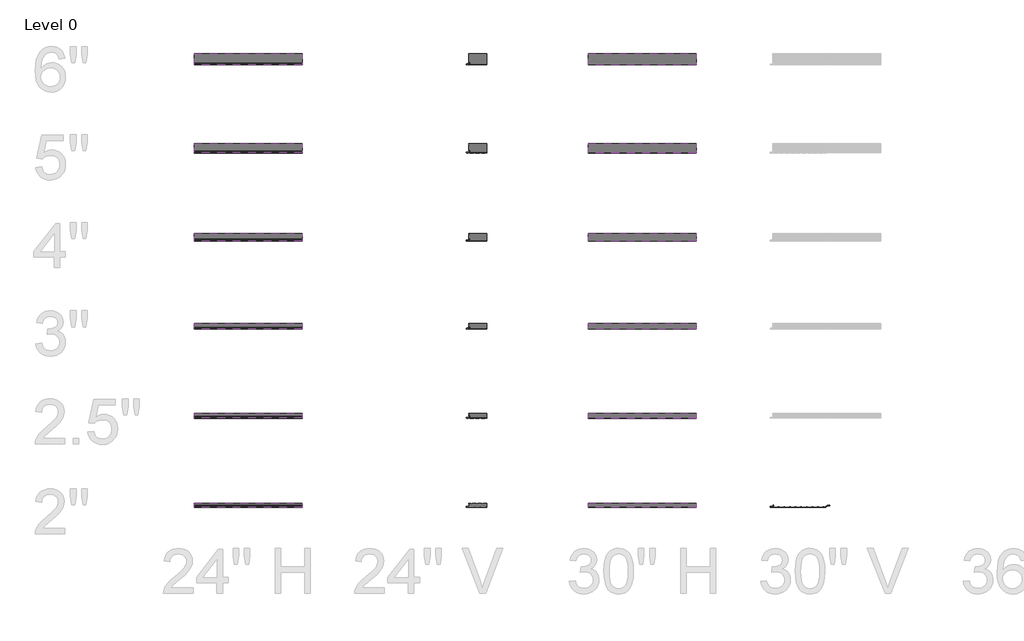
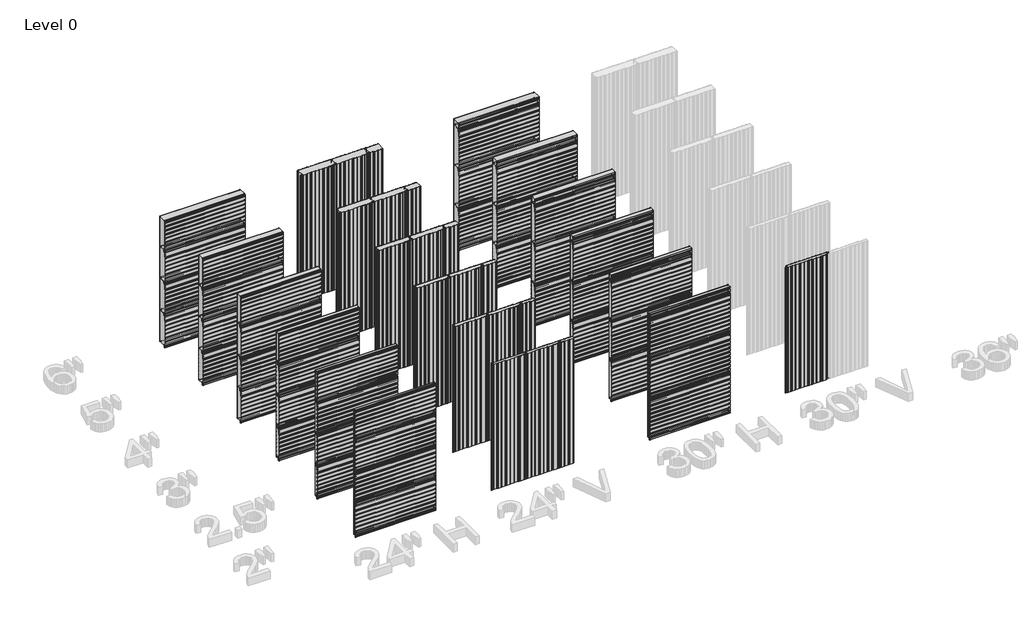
# One storey, part 1 of 5: 67 plates.
"""IFC4 building model written with IfcOpenShell, lengths in millimetres."""

from ifc_helpers import new_model, si_unit, origin, place, context, project, spatial, transform, mapped, element, save
from components import plate_c709af47, plate_b0f2de99, plate_cd0d1659, plate_123aba7d, plate_0f366c96, plate_8edaaf57, plate_3d0fb899, plate_f040c943, plate_9315405e, plate_3c53f4bd, plate_c366fed6, plate_6fa7aaa8, plate_1b5a5f25, plate_77654dfe, plate_fe4ee071, plate_993d08a6, plate_1634ea5a, plate_a4bec449, plate_3ed9eecc, plate_4017daaa, plate_b432f40a, plate_59b1665d, plate_a46f110f, plate_b8075c91, plate_1b91cf0f, plate_19a01b62, plate_844c534e, plate_5fc03b2c, plate_0d3032e6, plate_4f22e56c, plate_9081da33, plate_73ffa5bb, plate_9123f76a, plate_28c68afe, plate_2a957977, plate_dd146152, plate_8824311e, plate_5640bb00, plate_afb5f473, plate_10c0e79f, plate_7d57a904, plate_50353770, plate_b83bb295, plate_e773fe38, plate_7f2e1a05, plate_16957b23, plate_8e5ef11d, plate_bcca7846, plate_fe51cd75, plate_9586a886, plate_9828c6b8, plate_59946ea0, plate_35a1a863, plate_c3c1f8e7, plate_12433003, plate_22b19f27, plate_f623210a, plate_ed403b6f, plate_710b1f2b, plate_e210ae97

model = new_model("IFC4")

# Units and contexts
model_context = context("Model", 3, world=origin())
ifc_project = project(units=[si_unit("LENGTHUNIT", "METRE", prefix="MILLI")], contexts=[model_context])

# Site, building, storey
site = spatial("IfcSite", under=ifc_project)
building = spatial("IfcBuilding", under=site)
storey = spatial("IfcBuildingStorey", under=building, Name="Level 0", Elevation=0.0)

# Plates
placement = place(None, origin())
plate_shape = plate_c709af47(model_context)
plate_2_shape = plate_b0f2de99(model_context)
plate_3_shape = plate_cd0d1659(model_context)
element("IfcPlate", 1, ObjectType="KIP-30-Karrier-KP-R19-CP-Hz-SL_SL : Hz 2\"", at=placement, inside=storey, context=model_context, shape_type="MappedRepresentation", body=[
    mapped(plate_shape, transform((-24450.7250935, 8444.8222907, 0.0), x_axis=(1.0, 0.0, 0.0), y_axis=(0.0, 1.0, 0.0), z_axis=(0.0, 0.0, 1.0))),
    mapped(plate_2_shape, transform((-24450.7250935, 8444.8222907, 0.0), x_axis=(1.0, 0.0, 0.0), y_axis=(0.0, 1.0, 0.0), z_axis=(0.0, 0.0, 1.0))),
    mapped(plate_3_shape, transform((-24450.7250935, 8444.8222907, 0.0), x_axis=(1.0, 0.0, 0.0), y_axis=(0.0, 1.0, 0.0), z_axis=(0.0, 0.0, 1.0))),
])
element("IfcPlate", 2, ObjectType="KIP-30-Karrier-KP-R19-CP-Hz-SL_SL : Hz 2\"", at=placement, inside=storey, context=model_context, shape_type="MappedRepresentation", body=[
    mapped(plate_shape, transform((-24450.7250935, 8444.8222907, 762.0), x_axis=(1.0, 0.0, 0.0), y_axis=(0.0, 1.0, 0.0), z_axis=(0.0, 0.0, 1.0))),
    mapped(plate_2_shape, transform((-24450.7250935, 8444.8222907, 762.0), x_axis=(1.0, 0.0, 0.0), y_axis=(0.0, 1.0, 0.0), z_axis=(0.0, 0.0, 1.0))),
    mapped(plate_3_shape, transform((-24450.7250935, 8444.8222907, 762.0), x_axis=(1.0, 0.0, 0.0), y_axis=(0.0, 1.0, 0.0), z_axis=(0.0, 0.0, 1.0))),
])
element("IfcPlate", 3, ObjectType="KIP-30-Karrier-KP-R19-CP-Hz-SL_SL : Hz 2\"", at=placement, inside=storey, context=model_context, shape_type="MappedRepresentation", body=[
    mapped(plate_shape, transform((-24450.7250935, 8444.8222907, 1524.0), x_axis=(1.0, 0.0, 0.0), y_axis=(0.0, 1.0, 0.0), z_axis=(0.0, 0.0, 1.0))),
    mapped(plate_2_shape, transform((-24450.7250935, 8444.8222907, 1524.0), x_axis=(1.0, 0.0, 0.0), y_axis=(0.0, 1.0, 0.0), z_axis=(0.0, 0.0, 1.0))),
    mapped(plate_3_shape, transform((-24450.7250935, 8444.8222907, 1524.0), x_axis=(1.0, 0.0, 0.0), y_axis=(0.0, 1.0, 0.0), z_axis=(0.0, 0.0, 1.0))),
])
plate_4_shape = plate_123aba7d(model_context)
plate_5_shape = plate_0f366c96(model_context)
plate_6_shape = plate_8edaaf57(model_context)
element("IfcPlate", 4, ObjectType="KIP-24-Karrier-KP-R19-CP-Hz-SL3-8in_SL : Hz 2\"", at=placement, inside=storey, context=model_context, shape_type="MappedRepresentation", body=[
    mapped(plate_4_shape, transform((-29784.7250935, 8444.8222907, 0.0), x_axis=(1.0, 0.0, 0.0), y_axis=(0.0, 1.0, 0.0), z_axis=(0.0, 0.0, 1.0))),
    mapped(plate_5_shape, transform((-29784.7250935, 8444.8222907, 0.0), x_axis=(1.0, 0.0, 0.0), y_axis=(0.0, 1.0, 0.0), z_axis=(0.0, 0.0, 1.0))),
    mapped(plate_6_shape, transform((-29784.7250935, 8444.8222907, 0.0), x_axis=(1.0, 0.0, 0.0), y_axis=(0.0, 1.0, 0.0), z_axis=(0.0, 0.0, 1.0))),
])
element("IfcPlate", 5, ObjectType="KIP-24-Karrier-KP-R19-CP-Hz-SL3-8in_SL : Hz 2\"", at=placement, inside=storey, context=model_context, shape_type="MappedRepresentation", body=[
    mapped(plate_4_shape, transform((-29784.7250935, 8444.8222907, 609.6), x_axis=(1.0, 0.0, 0.0), y_axis=(0.0, 1.0, 0.0), z_axis=(0.0, 0.0, 1.0))),
    mapped(plate_5_shape, transform((-29784.7250935, 8444.8222907, 609.6), x_axis=(1.0, 0.0, 0.0), y_axis=(0.0, 1.0, 0.0), z_axis=(0.0, 0.0, 1.0))),
    mapped(plate_6_shape, transform((-29784.7250935, 8444.8222907, 609.6), x_axis=(1.0, 0.0, 0.0), y_axis=(0.0, 1.0, 0.0), z_axis=(0.0, 0.0, 1.0))),
])
element("IfcPlate", 6, ObjectType="KIP-24-Karrier-KP-R19-CP-Hz-SL3-8in_SL : Hz 2\"", at=placement, inside=storey, context=model_context, shape_type="MappedRepresentation", body=[
    mapped(plate_4_shape, transform((-29784.7250935, 8444.8222907, 1219.2), x_axis=(1.0, 0.0, 0.0), y_axis=(0.0, 1.0, 0.0), z_axis=(0.0, 0.0, 1.0))),
    mapped(plate_5_shape, transform((-29784.7250935, 8444.8222907, 1219.2), x_axis=(1.0, 0.0, 0.0), y_axis=(0.0, 1.0, 0.0), z_axis=(0.0, 0.0, 1.0))),
    mapped(plate_6_shape, transform((-29784.7250935, 8444.8222907, 1219.2), x_axis=(1.0, 0.0, 0.0), y_axis=(0.0, 1.0, 0.0), z_axis=(0.0, 0.0, 1.0))),
])
plate_7_shape = plate_3d0fb899(model_context)
element("IfcPlate", 7, ObjectType="KIP-24-Karrier-KP-R19-CP-Hz-SL3-8in_SL : Hz 2\"", at=placement, inside=storey, context=model_context, shape_type="MappedRepresentation", body=[
    mapped(plate_7_shape, transform((-29784.7250935, 8444.8222907, 1828.8), x_axis=(1.0, 0.0, 0.0), y_axis=(0.0, 1.0, 0.0), z_axis=(0.0, 0.0, 1.0))),
])
plate_8_shape = plate_f040c943(model_context)
element("IfcPlate", 8, ObjectType="KIP-30-Karrier-KP-R19-CP-Hz-SL_SL : Hz 2\"", at=placement, inside=storey, context=model_context, shape_type="MappedRepresentation", body=[
    mapped(plate_8_shape, transform((-24450.7250935, 8444.8222907, 2286.0), x_axis=(1.0, 0.0, 0.0), y_axis=(0.0, 1.0, 0.0), z_axis=(0.0, 0.0, 1.0))),
])
plate_9_shape = plate_9315405e(model_context)
plate_10_shape = plate_3c53f4bd(model_context)
element("IfcPlate", 9, ObjectType="KIP-30-Karrier-KP-R19-CP-Hz-SL_SL : Hz 2.5\"", at=placement, inside=storey, context=model_context, shape_type="MappedRepresentation", body=[
    mapped(plate_9_shape, transform((-24450.7250935, 9664.0222907, 0.0), x_axis=(1.0, 0.0, 0.0), y_axis=(0.0, 1.0, 0.0), z_axis=(0.0, 0.0, 1.0))),
    mapped(plate_2_shape, transform((-24450.7250935, 9664.0222907, 0.0), x_axis=(1.0, 0.0, 0.0), y_axis=(0.0, 1.0, 0.0), z_axis=(0.0, 0.0, 1.0))),
    mapped(plate_10_shape, transform((-24450.7250935, 9664.0222907, 0.0), x_axis=(1.0, 0.0, 0.0), y_axis=(0.0, 1.0, 0.0), z_axis=(0.0, 0.0, 1.0))),
])
element("IfcPlate", 10, ObjectType="KIP-30-Karrier-KP-R19-CP-Hz-SL_SL : Hz 2.5\"", at=placement, inside=storey, context=model_context, shape_type="MappedRepresentation", body=[
    mapped(plate_9_shape, transform((-24450.7250935, 9664.0222907, 762.0), x_axis=(1.0, 0.0, 0.0), y_axis=(0.0, 1.0, 0.0), z_axis=(0.0, 0.0, 1.0))),
    mapped(plate_2_shape, transform((-24450.7250935, 9664.0222907, 762.0), x_axis=(1.0, 0.0, 0.0), y_axis=(0.0, 1.0, 0.0), z_axis=(0.0, 0.0, 1.0))),
    mapped(plate_10_shape, transform((-24450.7250935, 9664.0222907, 762.0), x_axis=(1.0, 0.0, 0.0), y_axis=(0.0, 1.0, 0.0), z_axis=(0.0, 0.0, 1.0))),
])
element("IfcPlate", 11, ObjectType="KIP-30-Karrier-KP-R19-CP-Hz-SL_SL : Hz 2.5\"", at=placement, inside=storey, context=model_context, shape_type="MappedRepresentation", body=[
    mapped(plate_9_shape, transform((-24450.7250935, 9664.0222907, 1524.0), x_axis=(1.0, 0.0, 0.0), y_axis=(0.0, 1.0, 0.0), z_axis=(0.0, 0.0, 1.0))),
    mapped(plate_2_shape, transform((-24450.7250935, 9664.0222907, 1524.0), x_axis=(1.0, 0.0, 0.0), y_axis=(0.0, 1.0, 0.0), z_axis=(0.0, 0.0, 1.0))),
    mapped(plate_10_shape, transform((-24450.7250935, 9664.0222907, 1524.0), x_axis=(1.0, 0.0, 0.0), y_axis=(0.0, 1.0, 0.0), z_axis=(0.0, 0.0, 1.0))),
])
plate_11_shape = plate_c366fed6(model_context)
plate_12_shape = plate_6fa7aaa8(model_context)
element("IfcPlate", 12, ObjectType="KIP-24-Karrier-KP-R19-CP-Hz-SL3-8in_SL : Hz 2.5\"", at=placement, inside=storey, context=model_context, shape_type="MappedRepresentation", body=[
    mapped(plate_11_shape, transform((-29784.7250935, 9664.0222907, 0.0), x_axis=(1.0, 0.0, 0.0), y_axis=(0.0, 1.0, 0.0), z_axis=(0.0, 0.0, 1.0))),
    mapped(plate_5_shape, transform((-29784.7250935, 9664.0222907, 0.0), x_axis=(1.0, 0.0, 0.0), y_axis=(0.0, 1.0, 0.0), z_axis=(0.0, 0.0, 1.0))),
    mapped(plate_12_shape, transform((-29784.7250935, 9664.0222907, 0.0), x_axis=(1.0, 0.0, 0.0), y_axis=(0.0, 1.0, 0.0), z_axis=(0.0, 0.0, 1.0))),
])
element("IfcPlate", 13, ObjectType="KIP-24-Karrier-KP-R19-CP-Hz-SL3-8in_SL : Hz 2.5\"", at=placement, inside=storey, context=model_context, shape_type="MappedRepresentation", body=[
    mapped(plate_11_shape, transform((-29784.7250935, 9664.0222907, 609.6), x_axis=(1.0, 0.0, 0.0), y_axis=(0.0, 1.0, 0.0), z_axis=(0.0, 0.0, 1.0))),
    mapped(plate_5_shape, transform((-29784.7250935, 9664.0222907, 609.6), x_axis=(1.0, 0.0, 0.0), y_axis=(0.0, 1.0, 0.0), z_axis=(0.0, 0.0, 1.0))),
    mapped(plate_12_shape, transform((-29784.7250935, 9664.0222907, 609.6), x_axis=(1.0, 0.0, 0.0), y_axis=(0.0, 1.0, 0.0), z_axis=(0.0, 0.0, 1.0))),
])
element("IfcPlate", 14, ObjectType="KIP-24-Karrier-KP-R19-CP-Hz-SL3-8in_SL : Hz 2.5\"", at=placement, inside=storey, context=model_context, shape_type="MappedRepresentation", body=[
    mapped(plate_11_shape, transform((-29784.7250935, 9664.0222907, 1219.2), x_axis=(1.0, 0.0, 0.0), y_axis=(0.0, 1.0, 0.0), z_axis=(0.0, 0.0, 1.0))),
    mapped(plate_5_shape, transform((-29784.7250935, 9664.0222907, 1219.2), x_axis=(1.0, 0.0, 0.0), y_axis=(0.0, 1.0, 0.0), z_axis=(0.0, 0.0, 1.0))),
    mapped(plate_12_shape, transform((-29784.7250935, 9664.0222907, 1219.2), x_axis=(1.0, 0.0, 0.0), y_axis=(0.0, 1.0, 0.0), z_axis=(0.0, 0.0, 1.0))),
])
plate_13_shape = plate_1b5a5f25(model_context)
element("IfcPlate", 15, ObjectType="KIP-24-Karrier-KP-R19-CP-Hz-SL3-8in_SL : Hz 2.5\"", at=placement, inside=storey, context=model_context, shape_type="MappedRepresentation", body=[
    mapped(plate_13_shape, transform((-29784.7250935, 9664.0222907, 1828.8), x_axis=(1.0, 0.0, 0.0), y_axis=(0.0, 1.0, 0.0), z_axis=(0.0, 0.0, 1.0))),
])
plate_14_shape = plate_77654dfe(model_context)
element("IfcPlate", 16, ObjectType="KIP-30-Karrier-KP-R19-CP-Hz-SL_SL : Hz 2.5\"", at=placement, inside=storey, context=model_context, shape_type="MappedRepresentation", body=[
    mapped(plate_14_shape, transform((-24450.7250935, 9664.0222907, 2286.0), x_axis=(1.0, 0.0, 0.0), y_axis=(0.0, 1.0, 0.0), z_axis=(0.0, 0.0, 1.0))),
])
plate_15_shape = plate_fe4ee071(model_context)
plate_16_shape = plate_993d08a6(model_context)
element("IfcPlate", 17, ObjectType="KIP-30-Karrier-KP-R19-CP-Hz-SL_SL : Hz 3\"", at=placement, inside=storey, context=model_context, shape_type="MappedRepresentation", body=[
    mapped(plate_15_shape, transform((-24450.7250935, 10883.2222907, 0.0), x_axis=(1.0, 0.0, 0.0), y_axis=(0.0, 1.0, 0.0), z_axis=(0.0, 0.0, 1.0))),
    mapped(plate_2_shape, transform((-24450.7250935, 10883.2222907, 0.0), x_axis=(1.0, 0.0, 0.0), y_axis=(0.0, 1.0, 0.0), z_axis=(0.0, 0.0, 1.0))),
    mapped(plate_16_shape, transform((-24450.7250935, 10883.2222907, 0.0), x_axis=(1.0, 0.0, 0.0), y_axis=(0.0, 1.0, 0.0), z_axis=(0.0, 0.0, 1.0))),
])
element("IfcPlate", 18, ObjectType="KIP-30-Karrier-KP-R19-CP-Hz-SL_SL : Hz 3\"", at=placement, inside=storey, context=model_context, shape_type="MappedRepresentation", body=[
    mapped(plate_15_shape, transform((-24450.7250935, 10883.2222907, 762.0), x_axis=(1.0, 0.0, 0.0), y_axis=(0.0, 1.0, 0.0), z_axis=(0.0, 0.0, 1.0))),
    mapped(plate_2_shape, transform((-24450.7250935, 10883.2222907, 762.0), x_axis=(1.0, 0.0, 0.0), y_axis=(0.0, 1.0, 0.0), z_axis=(0.0, 0.0, 1.0))),
    mapped(plate_16_shape, transform((-24450.7250935, 10883.2222907, 762.0), x_axis=(1.0, 0.0, 0.0), y_axis=(0.0, 1.0, 0.0), z_axis=(0.0, 0.0, 1.0))),
])
element("IfcPlate", 19, ObjectType="KIP-30-Karrier-KP-R19-CP-Hz-SL_SL : Hz 3\"", at=placement, inside=storey, context=model_context, shape_type="MappedRepresentation", body=[
    mapped(plate_15_shape, transform((-24450.7250935, 10883.2222907, 1524.0), x_axis=(1.0, 0.0, 0.0), y_axis=(0.0, 1.0, 0.0), z_axis=(0.0, 0.0, 1.0))),
    mapped(plate_2_shape, transform((-24450.7250935, 10883.2222907, 1524.0), x_axis=(1.0, 0.0, 0.0), y_axis=(0.0, 1.0, 0.0), z_axis=(0.0, 0.0, 1.0))),
    mapped(plate_16_shape, transform((-24450.7250935, 10883.2222907, 1524.0), x_axis=(1.0, 0.0, 0.0), y_axis=(0.0, 1.0, 0.0), z_axis=(0.0, 0.0, 1.0))),
])
plate_17_shape = plate_1634ea5a(model_context)
plate_18_shape = plate_a4bec449(model_context)
element("IfcPlate", 20, ObjectType="KIP-24-Karrier-KP-R19-CP-Hz-SL3-8in_SL : Hz 3\"", at=placement, inside=storey, context=model_context, shape_type="MappedRepresentation", body=[
    mapped(plate_17_shape, transform((-29784.7250935, 10883.2222907, 0.0), x_axis=(1.0, 0.0, 0.0), y_axis=(0.0, 1.0, 0.0), z_axis=(0.0, 0.0, 1.0))),
    mapped(plate_5_shape, transform((-29784.7250935, 10883.2222907, 0.0), x_axis=(1.0, 0.0, 0.0), y_axis=(0.0, 1.0, 0.0), z_axis=(0.0, 0.0, 1.0))),
    mapped(plate_18_shape, transform((-29784.7250935, 10883.2222907, 0.0), x_axis=(1.0, 0.0, 0.0), y_axis=(0.0, 1.0, 0.0), z_axis=(0.0, 0.0, 1.0))),
])
element("IfcPlate", 21, ObjectType="KIP-24-Karrier-KP-R19-CP-Hz-SL3-8in_SL : Hz 3\"", at=placement, inside=storey, context=model_context, shape_type="MappedRepresentation", body=[
    mapped(plate_17_shape, transform((-29784.7250935, 10883.2222907, 609.6), x_axis=(1.0, 0.0, 0.0), y_axis=(0.0, 1.0, 0.0), z_axis=(0.0, 0.0, 1.0))),
    mapped(plate_5_shape, transform((-29784.7250935, 10883.2222907, 609.6), x_axis=(1.0, 0.0, 0.0), y_axis=(0.0, 1.0, 0.0), z_axis=(0.0, 0.0, 1.0))),
    mapped(plate_18_shape, transform((-29784.7250935, 10883.2222907, 609.6), x_axis=(1.0, 0.0, 0.0), y_axis=(0.0, 1.0, 0.0), z_axis=(0.0, 0.0, 1.0))),
])
element("IfcPlate", 22, ObjectType="KIP-24-Karrier-KP-R19-CP-Hz-SL3-8in_SL : Hz 3\"", at=placement, inside=storey, context=model_context, shape_type="MappedRepresentation", body=[
    mapped(plate_17_shape, transform((-29784.7250935, 10883.2222907, 1219.2), x_axis=(1.0, 0.0, 0.0), y_axis=(0.0, 1.0, 0.0), z_axis=(0.0, 0.0, 1.0))),
    mapped(plate_5_shape, transform((-29784.7250935, 10883.2222907, 1219.2), x_axis=(1.0, 0.0, 0.0), y_axis=(0.0, 1.0, 0.0), z_axis=(0.0, 0.0, 1.0))),
    mapped(plate_18_shape, transform((-29784.7250935, 10883.2222907, 1219.2), x_axis=(1.0, 0.0, 0.0), y_axis=(0.0, 1.0, 0.0), z_axis=(0.0, 0.0, 1.0))),
])
plate_19_shape = plate_3ed9eecc(model_context)
element("IfcPlate", 23, ObjectType="KIP-24-Karrier-KP-R19-CP-Hz-SL3-8in_SL : Hz 3\"", at=placement, inside=storey, context=model_context, shape_type="MappedRepresentation", body=[
    mapped(plate_19_shape, transform((-29784.7250935, 10883.2222907, 1828.8), x_axis=(1.0, 0.0, 0.0), y_axis=(0.0, 1.0, 0.0), z_axis=(0.0, 0.0, 1.0))),
])
plate_20_shape = plate_4017daaa(model_context)
element("IfcPlate", 24, ObjectType="KIP-30-Karrier-KP-R19-CP-Hz-SL_SL : Hz 3\"", at=placement, inside=storey, context=model_context, shape_type="MappedRepresentation", body=[
    mapped(plate_20_shape, transform((-24450.7250935, 10883.2222907, 2286.0), x_axis=(1.0, 0.0, 0.0), y_axis=(0.0, 1.0, 0.0), z_axis=(0.0, 0.0, 1.0))),
])
plate_21_shape = plate_b432f40a(model_context)
plate_22_shape = plate_59b1665d(model_context)
element("IfcPlate", 25, ObjectType="KIP-30-Karrier-KP-R19-CP-Hz-SL_SL : Hz 4\"", at=placement, inside=storey, context=model_context, shape_type="MappedRepresentation", body=[
    mapped(plate_21_shape, transform((-24450.7250935, 12102.4222907, 0.0), x_axis=(1.0, 0.0, 0.0), y_axis=(0.0, 1.0, 0.0), z_axis=(0.0, 0.0, 1.0))),
    mapped(plate_2_shape, transform((-24450.7250935, 12102.4222907, 0.0), x_axis=(1.0, 0.0, 0.0), y_axis=(0.0, 1.0, 0.0), z_axis=(0.0, 0.0, 1.0))),
    mapped(plate_22_shape, transform((-24450.7250935, 12102.4222907, 0.0), x_axis=(1.0, 0.0, 0.0), y_axis=(0.0, 1.0, 0.0), z_axis=(0.0, 0.0, 1.0))),
])
element("IfcPlate", 26, ObjectType="KIP-30-Karrier-KP-R19-CP-Hz-SL_SL : Hz 4\"", at=placement, inside=storey, context=model_context, shape_type="MappedRepresentation", body=[
    mapped(plate_21_shape, transform((-24450.7250935, 12102.4222907, 762.0), x_axis=(1.0, 0.0, 0.0), y_axis=(0.0, 1.0, 0.0), z_axis=(0.0, 0.0, 1.0))),
    mapped(plate_2_shape, transform((-24450.7250935, 12102.4222907, 762.0), x_axis=(1.0, 0.0, 0.0), y_axis=(0.0, 1.0, 0.0), z_axis=(0.0, 0.0, 1.0))),
    mapped(plate_22_shape, transform((-24450.7250935, 12102.4222907, 762.0), x_axis=(1.0, 0.0, 0.0), y_axis=(0.0, 1.0, 0.0), z_axis=(0.0, 0.0, 1.0))),
])
element("IfcPlate", 27, ObjectType="KIP-30-Karrier-KP-R19-CP-Hz-SL_SL : Hz 4\"", at=placement, inside=storey, context=model_context, shape_type="MappedRepresentation", body=[
    mapped(plate_21_shape, transform((-24450.7250935, 12102.4222907, 1524.0), x_axis=(1.0, 0.0, 0.0), y_axis=(0.0, 1.0, 0.0), z_axis=(0.0, 0.0, 1.0))),
    mapped(plate_2_shape, transform((-24450.7250935, 12102.4222907, 1524.0), x_axis=(1.0, 0.0, 0.0), y_axis=(0.0, 1.0, 0.0), z_axis=(0.0, 0.0, 1.0))),
    mapped(plate_22_shape, transform((-24450.7250935, 12102.4222907, 1524.0), x_axis=(1.0, 0.0, 0.0), y_axis=(0.0, 1.0, 0.0), z_axis=(0.0, 0.0, 1.0))),
])
plate_23_shape = plate_a46f110f(model_context)
plate_24_shape = plate_b8075c91(model_context)
element("IfcPlate", 28, ObjectType="KIP-24-Karrier-KP-R19-CP-Hz-SL3-8in_SL : Hz 4\"", at=placement, inside=storey, context=model_context, shape_type="MappedRepresentation", body=[
    mapped(plate_23_shape, transform((-29784.7250935, 12102.4222907, 0.0), x_axis=(1.0, 0.0, 0.0), y_axis=(0.0, 1.0, 0.0), z_axis=(0.0, 0.0, 1.0))),
    mapped(plate_5_shape, transform((-29784.7250935, 12102.4222907, 0.0), x_axis=(1.0, 0.0, 0.0), y_axis=(0.0, 1.0, 0.0), z_axis=(0.0, 0.0, 1.0))),
    mapped(plate_24_shape, transform((-29784.7250935, 12102.4222907, 0.0), x_axis=(1.0, 0.0, 0.0), y_axis=(0.0, 1.0, 0.0), z_axis=(0.0, 0.0, 1.0))),
])
element("IfcPlate", 29, ObjectType="KIP-24-Karrier-KP-R19-CP-Hz-SL3-8in_SL : Hz 4\"", at=placement, inside=storey, context=model_context, shape_type="MappedRepresentation", body=[
    mapped(plate_23_shape, transform((-29784.7250935, 12102.4222907, 609.6), x_axis=(1.0, 0.0, 0.0), y_axis=(0.0, 1.0, 0.0), z_axis=(0.0, 0.0, 1.0))),
    mapped(plate_5_shape, transform((-29784.7250935, 12102.4222907, 609.6), x_axis=(1.0, 0.0, 0.0), y_axis=(0.0, 1.0, 0.0), z_axis=(0.0, 0.0, 1.0))),
    mapped(plate_24_shape, transform((-29784.7250935, 12102.4222907, 609.6), x_axis=(1.0, 0.0, 0.0), y_axis=(0.0, 1.0, 0.0), z_axis=(0.0, 0.0, 1.0))),
])
element("IfcPlate", 30, ObjectType="KIP-24-Karrier-KP-R19-CP-Hz-SL3-8in_SL : Hz 4\"", at=placement, inside=storey, context=model_context, shape_type="MappedRepresentation", body=[
    mapped(plate_23_shape, transform((-29784.7250935, 12102.4222907, 1219.2), x_axis=(1.0, 0.0, 0.0), y_axis=(0.0, 1.0, 0.0), z_axis=(0.0, 0.0, 1.0))),
    mapped(plate_5_shape, transform((-29784.7250935, 12102.4222907, 1219.2), x_axis=(1.0, 0.0, 0.0), y_axis=(0.0, 1.0, 0.0), z_axis=(0.0, 0.0, 1.0))),
    mapped(plate_24_shape, transform((-29784.7250935, 12102.4222907, 1219.2), x_axis=(1.0, 0.0, 0.0), y_axis=(0.0, 1.0, 0.0), z_axis=(0.0, 0.0, 1.0))),
])
plate_25_shape = plate_1b91cf0f(model_context)
element("IfcPlate", 31, ObjectType="KIP-24-Karrier-KP-R19-CP-Hz-SL3-8in_SL : Hz 4\"", at=placement, inside=storey, context=model_context, shape_type="MappedRepresentation", body=[
    mapped(plate_25_shape, transform((-29784.7250935, 12102.4222907, 1828.8), x_axis=(1.0, 0.0, 0.0), y_axis=(0.0, 1.0, 0.0), z_axis=(0.0, 0.0, 1.0))),
])
plate_26_shape = plate_19a01b62(model_context)
element("IfcPlate", 32, ObjectType="KIP-30-Karrier-KP-R19-CP-Hz-SL_SL : Hz 4\"", at=placement, inside=storey, context=model_context, shape_type="MappedRepresentation", body=[
    mapped(plate_26_shape, transform((-24450.7250935, 12102.4222907, 2286.0), x_axis=(1.0, 0.0, 0.0), y_axis=(0.0, 1.0, 0.0), z_axis=(0.0, 0.0, 1.0))),
])
plate_27_shape = plate_844c534e(model_context)
plate_28_shape = plate_5fc03b2c(model_context)
element("IfcPlate", 33, ObjectType="KIP-30-Karrier-KP-R19-CP-Hz-SL_SL : Hz 5\"", at=placement, inside=storey, context=model_context, shape_type="MappedRepresentation", body=[
    mapped(plate_27_shape, transform((-24450.7250935, 13321.6222907, 0.0), x_axis=(1.0, 0.0, 0.0), y_axis=(0.0, 1.0, 0.0), z_axis=(0.0, 0.0, 1.0))),
    mapped(plate_2_shape, transform((-24450.7250935, 13321.6222907, 0.0), x_axis=(1.0, 0.0, 0.0), y_axis=(0.0, 1.0, 0.0), z_axis=(0.0, 0.0, 1.0))),
    mapped(plate_28_shape, transform((-24450.7250935, 13321.6222907, 0.0), x_axis=(1.0, 0.0, 0.0), y_axis=(0.0, 1.0, 0.0), z_axis=(0.0, 0.0, 1.0))),
])
element("IfcPlate", 34, ObjectType="KIP-30-Karrier-KP-R19-CP-Hz-SL_SL : Hz 5\"", at=placement, inside=storey, context=model_context, shape_type="MappedRepresentation", body=[
    mapped(plate_27_shape, transform((-24450.7250935, 13321.6222907, 762.0), x_axis=(1.0, 0.0, 0.0), y_axis=(0.0, 1.0, 0.0), z_axis=(0.0, 0.0, 1.0))),
    mapped(plate_2_shape, transform((-24450.7250935, 13321.6222907, 762.0), x_axis=(1.0, 0.0, 0.0), y_axis=(0.0, 1.0, 0.0), z_axis=(0.0, 0.0, 1.0))),
    mapped(plate_28_shape, transform((-24450.7250935, 13321.6222907, 762.0), x_axis=(1.0, 0.0, 0.0), y_axis=(0.0, 1.0, 0.0), z_axis=(0.0, 0.0, 1.0))),
])
element("IfcPlate", 35, ObjectType="KIP-30-Karrier-KP-R19-CP-Hz-SL_SL : Hz 5\"", at=placement, inside=storey, context=model_context, shape_type="MappedRepresentation", body=[
    mapped(plate_27_shape, transform((-24450.7250935, 13321.6222907, 1524.0), x_axis=(1.0, 0.0, 0.0), y_axis=(0.0, 1.0, 0.0), z_axis=(0.0, 0.0, 1.0))),
    mapped(plate_2_shape, transform((-24450.7250935, 13321.6222907, 1524.0), x_axis=(1.0, 0.0, 0.0), y_axis=(0.0, 1.0, 0.0), z_axis=(0.0, 0.0, 1.0))),
    mapped(plate_28_shape, transform((-24450.7250935, 13321.6222907, 1524.0), x_axis=(1.0, 0.0, 0.0), y_axis=(0.0, 1.0, 0.0), z_axis=(0.0, 0.0, 1.0))),
])
plate_29_shape = plate_0d3032e6(model_context)
plate_30_shape = plate_4f22e56c(model_context)
element("IfcPlate", 36, ObjectType="KIP-24-Karrier-KP-R19-CP-Hz-SL3-8in_SL : Hz 5\"", at=placement, inside=storey, context=model_context, shape_type="MappedRepresentation", body=[
    mapped(plate_29_shape, transform((-29784.7250935, 13321.6222907, 0.0), x_axis=(1.0, 0.0, 0.0), y_axis=(0.0, 1.0, 0.0), z_axis=(0.0, 0.0, 1.0))),
    mapped(plate_5_shape, transform((-29784.7250935, 13321.6222907, 0.0), x_axis=(1.0, 0.0, 0.0), y_axis=(0.0, 1.0, 0.0), z_axis=(0.0, 0.0, 1.0))),
    mapped(plate_30_shape, transform((-29784.7250935, 13321.6222907, 0.0), x_axis=(1.0, 0.0, 0.0), y_axis=(0.0, 1.0, 0.0), z_axis=(0.0, 0.0, 1.0))),
])
element("IfcPlate", 37, ObjectType="KIP-24-Karrier-KP-R19-CP-Hz-SL3-8in_SL : Hz 5\"", at=placement, inside=storey, context=model_context, shape_type="MappedRepresentation", body=[
    mapped(plate_29_shape, transform((-29784.7250935, 13321.6222907, 609.6), x_axis=(1.0, 0.0, 0.0), y_axis=(0.0, 1.0, 0.0), z_axis=(0.0, 0.0, 1.0))),
    mapped(plate_5_shape, transform((-29784.7250935, 13321.6222907, 609.6), x_axis=(1.0, 0.0, 0.0), y_axis=(0.0, 1.0, 0.0), z_axis=(0.0, 0.0, 1.0))),
    mapped(plate_30_shape, transform((-29784.7250935, 13321.6222907, 609.6), x_axis=(1.0, 0.0, 0.0), y_axis=(0.0, 1.0, 0.0), z_axis=(0.0, 0.0, 1.0))),
])
element("IfcPlate", 38, ObjectType="KIP-24-Karrier-KP-R19-CP-Hz-SL3-8in_SL : Hz 5\"", at=placement, inside=storey, context=model_context, shape_type="MappedRepresentation", body=[
    mapped(plate_29_shape, transform((-29784.7250935, 13321.6222907, 1219.2), x_axis=(1.0, 0.0, 0.0), y_axis=(0.0, 1.0, 0.0), z_axis=(0.0, 0.0, 1.0))),
    mapped(plate_5_shape, transform((-29784.7250935, 13321.6222907, 1219.2), x_axis=(1.0, 0.0, 0.0), y_axis=(0.0, 1.0, 0.0), z_axis=(0.0, 0.0, 1.0))),
    mapped(plate_30_shape, transform((-29784.7250935, 13321.6222907, 1219.2), x_axis=(1.0, 0.0, 0.0), y_axis=(0.0, 1.0, 0.0), z_axis=(0.0, 0.0, 1.0))),
])
plate_31_shape = plate_9081da33(model_context)
element("IfcPlate", 39, ObjectType="KIP-24-Karrier-KP-R19-CP-Hz-SL3-8in_SL : Hz 5\"", at=placement, inside=storey, context=model_context, shape_type="MappedRepresentation", body=[
    mapped(plate_31_shape, transform((-29784.7250935, 13321.6222907, 1828.8), x_axis=(1.0, 0.0, 0.0), y_axis=(0.0, 1.0, 0.0), z_axis=(0.0, 0.0, 1.0))),
])
plate_32_shape = plate_73ffa5bb(model_context)
element("IfcPlate", 40, ObjectType="KIP-30-Karrier-KP-R19-CP-Hz-SL_SL : Hz 5\"", at=placement, inside=storey, context=model_context, shape_type="MappedRepresentation", body=[
    mapped(plate_32_shape, transform((-24450.7250935, 13321.6222907, 2286.0), x_axis=(1.0, 0.0, 0.0), y_axis=(0.0, 1.0, 0.0), z_axis=(0.0, 0.0, 1.0))),
])
plate_33_shape = plate_9123f76a(model_context)
plate_34_shape = plate_28c68afe(model_context)
element("IfcPlate", 41, ObjectType="KIP-30-Karrier-KP-R19-CP-Hz-SL_SL : Hz 6\"", at=placement, inside=storey, context=model_context, shape_type="MappedRepresentation", body=[
    mapped(plate_33_shape, transform((-24450.7250935, 14539.4207172, 0.0), x_axis=(1.0, 0.0, 0.0), y_axis=(0.0, 1.0, 0.0), z_axis=(0.0, 0.0, 1.0))),
    mapped(plate_2_shape, transform((-24450.7250935, 14539.4207172, 0.0), x_axis=(1.0, 0.0, 0.0), y_axis=(0.0, 1.0, 0.0), z_axis=(0.0, 0.0, 1.0))),
    mapped(plate_34_shape, transform((-24450.7250935, 14539.4207172, 0.0), x_axis=(1.0, 0.0, 0.0), y_axis=(0.0, 1.0, 0.0), z_axis=(0.0, 0.0, 1.0))),
])
element("IfcPlate", 42, ObjectType="KIP-30-Karrier-KP-R19-CP-Hz-SL_SL : Hz 6\"", at=placement, inside=storey, context=model_context, shape_type="MappedRepresentation", body=[
    mapped(plate_33_shape, transform((-24450.7250935, 14539.4207172, 762.0), x_axis=(1.0, 0.0, 0.0), y_axis=(0.0, 1.0, 0.0), z_axis=(0.0, 0.0, 1.0))),
    mapped(plate_2_shape, transform((-24450.7250935, 14539.4207172, 762.0), x_axis=(1.0, 0.0, 0.0), y_axis=(0.0, 1.0, 0.0), z_axis=(0.0, 0.0, 1.0))),
    mapped(plate_34_shape, transform((-24450.7250935, 14539.4207172, 762.0), x_axis=(1.0, 0.0, 0.0), y_axis=(0.0, 1.0, 0.0), z_axis=(0.0, 0.0, 1.0))),
])
element("IfcPlate", 43, ObjectType="KIP-30-Karrier-KP-R19-CP-Hz-SL_SL : Hz 6\"", at=placement, inside=storey, context=model_context, shape_type="MappedRepresentation", body=[
    mapped(plate_33_shape, transform((-24450.7250935, 14539.4207172, 1524.0), x_axis=(1.0, 0.0, 0.0), y_axis=(0.0, 1.0, 0.0), z_axis=(0.0, 0.0, 1.0))),
    mapped(plate_2_shape, transform((-24450.7250935, 14539.4207172, 1524.0), x_axis=(1.0, 0.0, 0.0), y_axis=(0.0, 1.0, 0.0), z_axis=(0.0, 0.0, 1.0))),
    mapped(plate_34_shape, transform((-24450.7250935, 14539.4207172, 1524.0), x_axis=(1.0, 0.0, 0.0), y_axis=(0.0, 1.0, 0.0), z_axis=(0.0, 0.0, 1.0))),
])
plate_35_shape = plate_2a957977(model_context)
plate_36_shape = plate_dd146152(model_context)
element("IfcPlate", 44, ObjectType="KIP-24-Karrier-KP-R19-CP-Hz-SL3-8in_SL : Hz 6\"", at=placement, inside=storey, context=model_context, shape_type="MappedRepresentation", body=[
    mapped(plate_35_shape, transform((-29784.7250935, 14539.4207172, 0.0), x_axis=(1.0, 0.0, 0.0), y_axis=(0.0, 1.0, 0.0), z_axis=(0.0, 0.0, 1.0))),
    mapped(plate_5_shape, transform((-29784.7250935, 14539.4207172, 0.0), x_axis=(1.0, 0.0, 0.0), y_axis=(0.0, 1.0, 0.0), z_axis=(0.0, 0.0, 1.0))),
    mapped(plate_36_shape, transform((-29784.7250935, 14539.4207172, 0.0), x_axis=(1.0, 0.0, 0.0), y_axis=(0.0, 1.0, 0.0), z_axis=(0.0, 0.0, 1.0))),
])
element("IfcPlate", 45, ObjectType="KIP-24-Karrier-KP-R19-CP-Hz-SL3-8in_SL : Hz 6\"", at=placement, inside=storey, context=model_context, shape_type="MappedRepresentation", body=[
    mapped(plate_35_shape, transform((-29784.7250935, 14539.4207172, 609.6), x_axis=(1.0, 0.0, 0.0), y_axis=(0.0, 1.0, 0.0), z_axis=(0.0, 0.0, 1.0))),
    mapped(plate_5_shape, transform((-29784.7250935, 14539.4207172, 609.6), x_axis=(1.0, 0.0, 0.0), y_axis=(0.0, 1.0, 0.0), z_axis=(0.0, 0.0, 1.0))),
    mapped(plate_36_shape, transform((-29784.7250935, 14539.4207172, 609.6), x_axis=(1.0, 0.0, 0.0), y_axis=(0.0, 1.0, 0.0), z_axis=(0.0, 0.0, 1.0))),
])
element("IfcPlate", 46, ObjectType="KIP-24-Karrier-KP-R19-CP-Hz-SL3-8in_SL : Hz 6\"", at=placement, inside=storey, context=model_context, shape_type="MappedRepresentation", body=[
    mapped(plate_35_shape, transform((-29784.7250935, 14539.4207172, 1219.2), x_axis=(1.0, 0.0, 0.0), y_axis=(0.0, 1.0, 0.0), z_axis=(0.0, 0.0, 1.0))),
    mapped(plate_5_shape, transform((-29784.7250935, 14539.4207172, 1219.2), x_axis=(1.0, 0.0, 0.0), y_axis=(0.0, 1.0, 0.0), z_axis=(0.0, 0.0, 1.0))),
    mapped(plate_36_shape, transform((-29784.7250935, 14539.4207172, 1219.2), x_axis=(1.0, 0.0, 0.0), y_axis=(0.0, 1.0, 0.0), z_axis=(0.0, 0.0, 1.0))),
])
plate_37_shape = plate_8824311e(model_context)
element("IfcPlate", 47, ObjectType="KIP-24-Karrier-KP-R19-CP-Hz-SL3-8in_SL : Hz 6\"", at=placement, inside=storey, context=model_context, shape_type="MappedRepresentation", body=[
    mapped(plate_37_shape, transform((-29784.7250935, 14539.4207172, 1828.8), x_axis=(1.0, 0.0, 0.0), y_axis=(0.0, 1.0, 0.0), z_axis=(0.0, 0.0, 1.0))),
])
plate_38_shape = plate_5640bb00(model_context)
element("IfcPlate", 48, ObjectType="KIP-30-Karrier-KP-R19-CP-Hz-SL_SL : Hz 6\"", at=placement, inside=storey, context=model_context, shape_type="MappedRepresentation", body=[
    mapped(plate_38_shape, transform((-24450.7250935, 14539.4207172, 2286.0), x_axis=(1.0, 0.0, 0.0), y_axis=(0.0, 1.0, 0.0), z_axis=(0.0, 0.0, 1.0))),
])
plate_39_shape = plate_afb5f473(model_context)
plate_40_shape = plate_10c0e79f(model_context)
plate_41_shape = plate_7d57a904(model_context)
element("IfcPlate", 49, ObjectType="KIP-30-Karrier-KP-R19-CP-Vt-SL_SL : Vt 2\"", at=placement, inside=storey, context=model_context, shape_type="MappedRepresentation", body=[
    mapped(plate_39_shape, transform((-22299.9413834, 8443.4207172, 0.0), x_axis=(1.0, 0.0, 0.0), y_axis=(0.0, 1.0, 0.0), z_axis=(0.0, 0.0, 1.0))),
    mapped(plate_40_shape, transform((-22299.9413834, 8443.4207172, 0.0), x_axis=(1.0, 0.0, 0.0), y_axis=(0.0, 1.0, 0.0), z_axis=(0.0, 0.0, 1.0))),
    mapped(plate_41_shape, transform((-22299.9413834, 8443.4207172, 0.0), x_axis=(1.0, 0.0, 0.0), y_axis=(0.0, 1.0, 0.0), z_axis=(0.0, 0.0, 1.0))),
])
plate_42_shape = plate_50353770(model_context)
plate_43_shape = plate_b83bb295(model_context)
plate_44_shape = plate_e773fe38(model_context)
element("IfcPlate", 50, ObjectType="KIP-24-Karrier-KP-R19-CP-Vt-SL3-8in_SL : Vt 2\"", at=placement, inside=storey, context=model_context, shape_type="MappedRepresentation", body=[
    mapped(plate_42_shape, transform((-27710.1413834, 8443.4207172, 0.0), x_axis=(1.0, 0.0, 0.0), y_axis=(0.0, 1.0, 0.0), z_axis=(0.0, 0.0, 1.0))),
    mapped(plate_43_shape, transform((-27710.1413834, 8443.4207172, 0.0), x_axis=(1.0, 0.0, 0.0), y_axis=(0.0, 1.0, 0.0), z_axis=(0.0, 0.0, 1.0))),
    mapped(plate_44_shape, transform((-27710.1413834, 8443.4207172, 0.0), x_axis=(1.0, 0.0, 0.0), y_axis=(0.0, 1.0, 0.0), z_axis=(0.0, 0.0, 1.0))),
])
element("IfcPlate", 51, ObjectType="KIP-24-Karrier-KP-R19-CP-Vt-SL3-8in_SL : Vt 2\"", at=placement, inside=storey, context=model_context, shape_type="MappedRepresentation", body=[
    mapped(plate_42_shape, transform((-27100.5413833, 8443.4207172, 0.0), x_axis=(1.0, 0.0, 0.0), y_axis=(0.0, 1.0, 0.0), z_axis=(0.0, 0.0, 1.0))),
    mapped(plate_43_shape, transform((-27100.5413833, 8443.4207172, 0.0), x_axis=(1.0, 0.0, 0.0), y_axis=(0.0, 1.0, 0.0), z_axis=(0.0, 0.0, 1.0))),
    mapped(plate_44_shape, transform((-27100.5413833, 8443.4207172, 0.0), x_axis=(1.0, 0.0, 0.0), y_axis=(0.0, 1.0, 0.0), z_axis=(0.0, 0.0, 1.0))),
])
plate_45_shape = plate_7f2e1a05(model_context)
element("IfcPlate", 52, ObjectType="KIP-24-Karrier-KP-R19-CP-Vt-SL3-8in_SL : Vt 2\"", at=placement, inside=storey, context=model_context, shape_type="MappedRepresentation", body=[
    mapped(plate_45_shape, transform((-26675.3413834, 8443.4207172, 0.0), x_axis=(1.0, 0.0, 0.0), y_axis=(0.0, 1.0, 0.0), z_axis=(0.0, 0.0, 1.0))),
])
plate_46_shape = plate_16957b23(model_context)
plate_47_shape = plate_8e5ef11d(model_context)
element("IfcPlate", 53, ObjectType="KIP-24-Karrier-KP-R19-CP-Vt-SL3-8in_SL : Vt 2.5\"", at=placement, inside=storey, context=model_context, shape_type="MappedRepresentation", body=[
    mapped(plate_46_shape, transform((-27710.1413834, 9662.6207172, 0.0), x_axis=(1.0, 0.0, 0.0), y_axis=(0.0, 1.0, 0.0), z_axis=(0.0, 0.0, 1.0))),
    mapped(plate_43_shape, transform((-27710.1413834, 9662.6207172, 0.0), x_axis=(1.0, 0.0, 0.0), y_axis=(0.0, 1.0, 0.0), z_axis=(0.0, 0.0, 1.0))),
    mapped(plate_47_shape, transform((-27710.1413834, 9662.6207172, 0.0), x_axis=(1.0, 0.0, 0.0), y_axis=(0.0, 1.0, 0.0), z_axis=(0.0, 0.0, 1.0))),
])
element("IfcPlate", 54, ObjectType="KIP-24-Karrier-KP-R19-CP-Vt-SL3-8in_SL : Vt 2.5\"", at=placement, inside=storey, context=model_context, shape_type="MappedRepresentation", body=[
    mapped(plate_46_shape, transform((-27100.5413833, 9662.6207172, 0.0), x_axis=(1.0, 0.0, 0.0), y_axis=(0.0, 1.0, 0.0), z_axis=(0.0, 0.0, 1.0))),
    mapped(plate_43_shape, transform((-27100.5413833, 9662.6207172, 0.0), x_axis=(1.0, 0.0, 0.0), y_axis=(0.0, 1.0, 0.0), z_axis=(0.0, 0.0, 1.0))),
    mapped(plate_47_shape, transform((-27100.5413833, 9662.6207172, 0.0), x_axis=(1.0, 0.0, 0.0), y_axis=(0.0, 1.0, 0.0), z_axis=(0.0, 0.0, 1.0))),
])
plate_48_shape = plate_bcca7846(model_context)
element("IfcPlate", 55, ObjectType="KIP-24-Karrier-KP-R19-CP-Vt-SL3-8in_SL : Vt 2.5\"", at=placement, inside=storey, context=model_context, shape_type="MappedRepresentation", body=[
    mapped(plate_48_shape, transform((-26675.3413834, 9662.6207172, 0.0), x_axis=(1.0, 0.0, 0.0), y_axis=(0.0, 1.0, 0.0), z_axis=(0.0, 0.0, 1.0))),
])
plate_49_shape = plate_fe51cd75(model_context)
plate_50_shape = plate_9586a886(model_context)
element("IfcPlate", 56, ObjectType="KIP-24-Karrier-KP-R19-CP-Vt-SL3-8in_SL : Vt 3\"", at=placement, inside=storey, context=model_context, shape_type="MappedRepresentation", body=[
    mapped(plate_49_shape, transform((-27710.1413834, 10881.8207172, 0.0), x_axis=(1.0, 0.0, 0.0), y_axis=(0.0, 1.0, 0.0), z_axis=(0.0, 0.0, 1.0))),
    mapped(plate_43_shape, transform((-27710.1413834, 10881.8207172, 0.0), x_axis=(1.0, 0.0, 0.0), y_axis=(0.0, 1.0, 0.0), z_axis=(0.0, 0.0, 1.0))),
    mapped(plate_50_shape, transform((-27710.1413834, 10881.8207172, 0.0), x_axis=(1.0, 0.0, 0.0), y_axis=(0.0, 1.0, 0.0), z_axis=(0.0, 0.0, 1.0))),
])
element("IfcPlate", 57, ObjectType="KIP-24-Karrier-KP-R19-CP-Vt-SL3-8in_SL : Vt 3\"", at=placement, inside=storey, context=model_context, shape_type="MappedRepresentation", body=[
    mapped(plate_49_shape, transform((-27100.5413833, 10881.8207172, 0.0), x_axis=(1.0, 0.0, 0.0), y_axis=(0.0, 1.0, 0.0), z_axis=(0.0, 0.0, 1.0))),
    mapped(plate_43_shape, transform((-27100.5413833, 10881.8207172, 0.0), x_axis=(1.0, 0.0, 0.0), y_axis=(0.0, 1.0, 0.0), z_axis=(0.0, 0.0, 1.0))),
    mapped(plate_50_shape, transform((-27100.5413833, 10881.8207172, 0.0), x_axis=(1.0, 0.0, 0.0), y_axis=(0.0, 1.0, 0.0), z_axis=(0.0, 0.0, 1.0))),
])
plate_51_shape = plate_9828c6b8(model_context)
element("IfcPlate", 58, ObjectType="KIP-24-Karrier-KP-R19-CP-Vt-SL3-8in_SL : Vt 3\"", at=placement, inside=storey, context=model_context, shape_type="MappedRepresentation", body=[
    mapped(plate_51_shape, transform((-26675.3413834, 10881.8207172, 0.0), x_axis=(1.0, 0.0, 0.0), y_axis=(0.0, 1.0, 0.0), z_axis=(0.0, 0.0, 1.0))),
])
plate_52_shape = plate_59946ea0(model_context)
plate_53_shape = plate_35a1a863(model_context)
element("IfcPlate", 59, ObjectType="KIP-24-Karrier-KP-R19-CP-Vt-SL3-8in_SL : Vt 4\"", at=placement, inside=storey, context=model_context, shape_type="MappedRepresentation", body=[
    mapped(plate_52_shape, transform((-27710.1413834, 12101.0207172, 0.0), x_axis=(1.0, 0.0, 0.0), y_axis=(0.0, 1.0, 0.0), z_axis=(0.0, 0.0, 1.0))),
    mapped(plate_43_shape, transform((-27710.1413834, 12101.0207172, 0.0), x_axis=(1.0, 0.0, 0.0), y_axis=(0.0, 1.0, 0.0), z_axis=(0.0, 0.0, 1.0))),
    mapped(plate_53_shape, transform((-27710.1413834, 12101.0207172, 0.0), x_axis=(1.0, 0.0, 0.0), y_axis=(0.0, 1.0, 0.0), z_axis=(0.0, 0.0, 1.0))),
])
element("IfcPlate", 60, ObjectType="KIP-24-Karrier-KP-R19-CP-Vt-SL3-8in_SL : Vt 4\"", at=placement, inside=storey, context=model_context, shape_type="MappedRepresentation", body=[
    mapped(plate_52_shape, transform((-27100.5413833, 12101.0207172, 0.0), x_axis=(1.0, 0.0, 0.0), y_axis=(0.0, 1.0, 0.0), z_axis=(0.0, 0.0, 1.0))),
    mapped(plate_43_shape, transform((-27100.5413833, 12101.0207172, 0.0), x_axis=(1.0, 0.0, 0.0), y_axis=(0.0, 1.0, 0.0), z_axis=(0.0, 0.0, 1.0))),
    mapped(plate_53_shape, transform((-27100.5413833, 12101.0207172, 0.0), x_axis=(1.0, 0.0, 0.0), y_axis=(0.0, 1.0, 0.0), z_axis=(0.0, 0.0, 1.0))),
])
plate_54_shape = plate_c3c1f8e7(model_context)
element("IfcPlate", 61, ObjectType="KIP-24-Karrier-KP-R19-CP-Vt-SL3-8in_SL : Vt 4\"", at=placement, inside=storey, context=model_context, shape_type="MappedRepresentation", body=[
    mapped(plate_54_shape, transform((-26675.3413834, 12101.0207172, 0.0), x_axis=(1.0, 0.0, 0.0), y_axis=(0.0, 1.0, 0.0), z_axis=(0.0, 0.0, 1.0))),
])
plate_55_shape = plate_12433003(model_context)
plate_56_shape = plate_22b19f27(model_context)
element("IfcPlate", 62, ObjectType="KIP-24-Karrier-KP-R19-CP-Vt-SL3-8in_SL : Vt 5\"", at=placement, inside=storey, context=model_context, shape_type="MappedRepresentation", body=[
    mapped(plate_55_shape, transform((-27710.1413834, 13320.2207172, 0.0), x_axis=(1.0, 0.0, 0.0), y_axis=(0.0, 1.0, 0.0), z_axis=(0.0, 0.0, 1.0))),
    mapped(plate_43_shape, transform((-27710.1413834, 13320.2207172, 0.0), x_axis=(1.0, 0.0, 0.0), y_axis=(0.0, 1.0, 0.0), z_axis=(0.0, 0.0, 1.0))),
    mapped(plate_56_shape, transform((-27710.1413834, 13320.2207172, 0.0), x_axis=(1.0, 0.0, 0.0), y_axis=(0.0, 1.0, 0.0), z_axis=(0.0, 0.0, 1.0))),
])
element("IfcPlate", 63, ObjectType="KIP-24-Karrier-KP-R19-CP-Vt-SL3-8in_SL : Vt 5\"", at=placement, inside=storey, context=model_context, shape_type="MappedRepresentation", body=[
    mapped(plate_55_shape, transform((-27100.5413833, 13320.2207172, 0.0), x_axis=(1.0, 0.0, 0.0), y_axis=(0.0, 1.0, 0.0), z_axis=(0.0, 0.0, 1.0))),
    mapped(plate_43_shape, transform((-27100.5413833, 13320.2207172, 0.0), x_axis=(1.0, 0.0, 0.0), y_axis=(0.0, 1.0, 0.0), z_axis=(0.0, 0.0, 1.0))),
    mapped(plate_56_shape, transform((-27100.5413833, 13320.2207172, 0.0), x_axis=(1.0, 0.0, 0.0), y_axis=(0.0, 1.0, 0.0), z_axis=(0.0, 0.0, 1.0))),
])
plate_57_shape = plate_f623210a(model_context)
element("IfcPlate", 64, ObjectType="KIP-24-Karrier-KP-R19-CP-Vt-SL3-8in_SL : Vt 5\"", at=placement, inside=storey, context=model_context, shape_type="MappedRepresentation", body=[
    mapped(plate_57_shape, transform((-26675.3413834, 13320.2207172, 0.0), x_axis=(1.0, 0.0, 0.0), y_axis=(0.0, 1.0, 0.0), z_axis=(0.0, 0.0, 1.0))),
])
plate_58_shape = plate_ed403b6f(model_context)
plate_59_shape = plate_710b1f2b(model_context)
element("IfcPlate", 65, ObjectType="KIP-24-Karrier-KP-R19-CP-Vt-SL3-8in_SL : Vt 6\"", at=placement, inside=storey, context=model_context, shape_type="MappedRepresentation", body=[
    mapped(plate_58_shape, transform((-27710.1413834, 14539.4207172, 0.0), x_axis=(1.0, 0.0, 0.0), y_axis=(0.0, 1.0, 0.0), z_axis=(0.0, 0.0, 1.0))),
    mapped(plate_43_shape, transform((-27710.1413834, 14539.4207172, 0.0), x_axis=(1.0, 0.0, 0.0), y_axis=(0.0, 1.0, 0.0), z_axis=(0.0, 0.0, 1.0))),
    mapped(plate_59_shape, transform((-27710.1413834, 14539.4207172, 0.0), x_axis=(1.0, 0.0, 0.0), y_axis=(0.0, 1.0, 0.0), z_axis=(0.0, 0.0, 1.0))),
])
element("IfcPlate", 66, ObjectType="KIP-24-Karrier-KP-R19-CP-Vt-SL3-8in_SL : Vt 6\"", at=placement, inside=storey, context=model_context, shape_type="MappedRepresentation", body=[
    mapped(plate_58_shape, transform((-27100.5413833, 14539.4207172, 0.0), x_axis=(1.0, 0.0, 0.0), y_axis=(0.0, 1.0, 0.0), z_axis=(0.0, 0.0, 1.0))),
    mapped(plate_43_shape, transform((-27100.5413833, 14539.4207172, 0.0), x_axis=(1.0, 0.0, 0.0), y_axis=(0.0, 1.0, 0.0), z_axis=(0.0, 0.0, 1.0))),
    mapped(plate_59_shape, transform((-27100.5413833, 14539.4207172, 0.0), x_axis=(1.0, 0.0, 0.0), y_axis=(0.0, 1.0, 0.0), z_axis=(0.0, 0.0, 1.0))),
])
plate_60_shape = plate_e210ae97(model_context)
element("IfcPlate", 67, ObjectType="KIP-24-Karrier-KP-R19-CP-Vt-SL3-8in_SL : Vt 6\"", at=placement, inside=storey, context=model_context, shape_type="MappedRepresentation", body=[
    mapped(plate_60_shape, transform((-26675.3413834, 14539.4207172, 0.0), x_axis=(1.0, 0.0, 0.0), y_axis=(0.0, 1.0, 0.0), z_axis=(0.0, 0.0, 1.0))),
])

save(model, "model.ifc")
